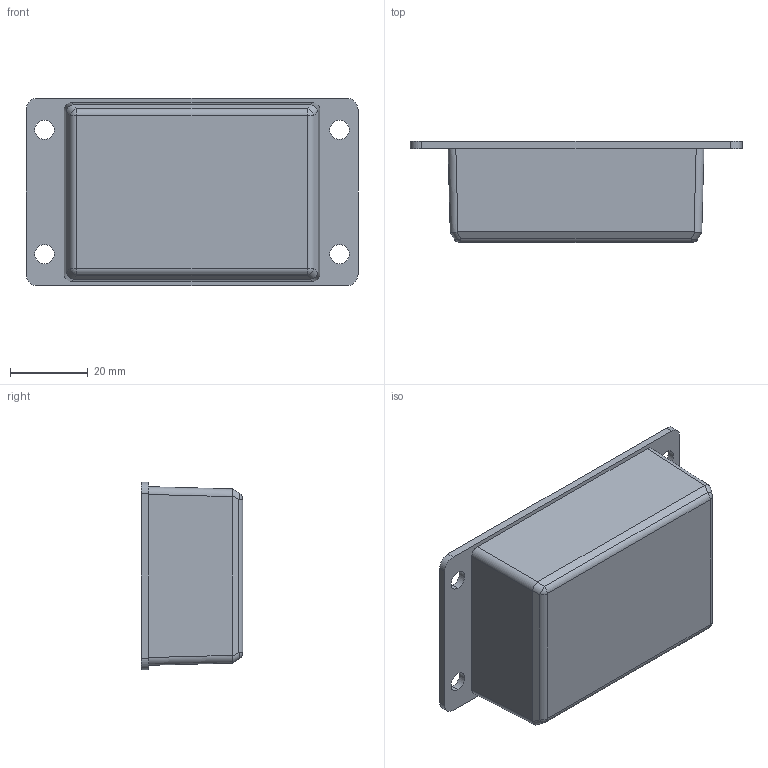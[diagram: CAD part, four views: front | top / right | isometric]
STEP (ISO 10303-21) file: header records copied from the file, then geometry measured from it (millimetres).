
FILE_DESCRIPTION (( 'STEP AP214' ), '1' );
FILE_NAME ('Tapa PP94 E.STEP', '2017-10-16T07:08:50', ( 'aaa' ), ( '' ), 'SwSTEP 2.0', 'SolidWorks 2013', '' );
FILE_SCHEMA (( 'AUTOMOTIVE_DESIGN' ));
Length unit declared in the file: millimetre
Products named in the file (1): Tapa PP94 E
Bounding box: 85.5 x 26.1 x 48.3 mm (x, y, z)
Volume: 17900.5 mm3; surface area: 19065 mm2
Topology: 1 solids, 1 shells, 71 faces, 178 edges, 112 vertices
Faces by surface type: cylinder 38, plane 29, sphere 4
Entity records: 2146 total; most frequent: CARTESIAN_POINT 430, DIRECTION 358, ORIENTED_EDGE 348, EDGE_CURVE 174, AXIS2_PLACEMENT_3D 136, VERTEX_POINT 112, EDGE_LOOP 86, VECTOR 86
